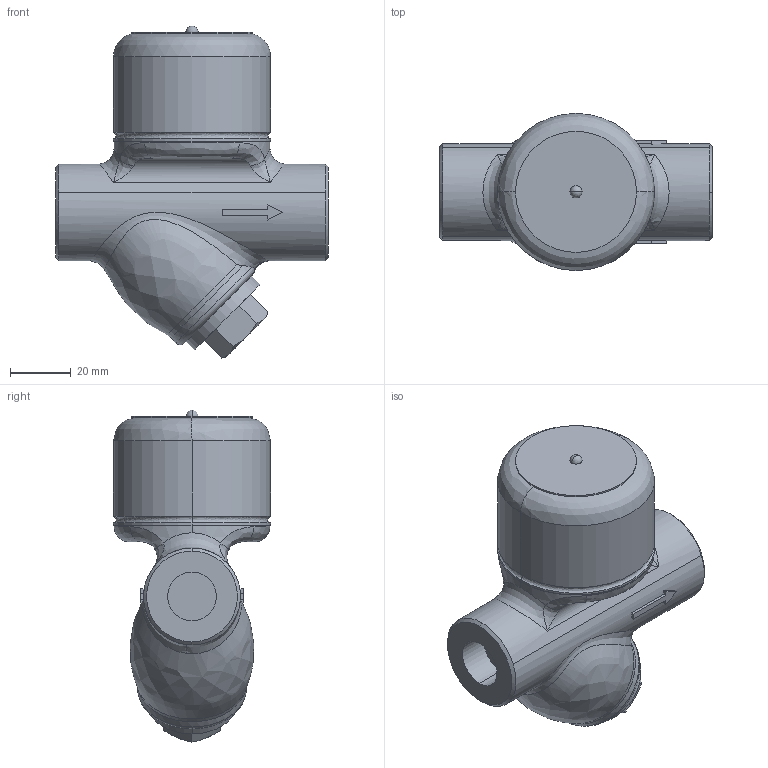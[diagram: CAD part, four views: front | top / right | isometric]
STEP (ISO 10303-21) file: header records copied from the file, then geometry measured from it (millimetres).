
FILE_DESCRIPTION( (''), '2;1');
FILE_NAME ('PC1027.12188.TD-10NA 15A_23036.stp','2025-07-31T18:11:41',(''),(''),'spGate 20.6.3 (****-****-****-****)','','');
FILE_SCHEMA (('AUTOMOTIVE_DESIGN'));
Length unit declared in the file: millimetre
Bounding box: 90 x 51.89 x 109.69 mm (x, y, z)
Volume: 194974.2 mm3; surface area: 24311.6 mm2
Topology: 1 solids, 1 shells, 87 faces, 205 edges, 125 vertices
Faces by surface type: bspline 34, plane 34, cylinder 17, sphere 2
Entity records: 6075 total; most frequent: CARTESIAN_POINT 2706, ORIENTED_EDGE 398, DIRECTION 300, COLOUR_RGB 287, PRESENTATION_STYLE_ASSIGNMENT 287, STYLED_ITEM 287, EDGE_CURVE 199, DRAUGHTING_PRE_DEFINED_CURVE_FONT 199
